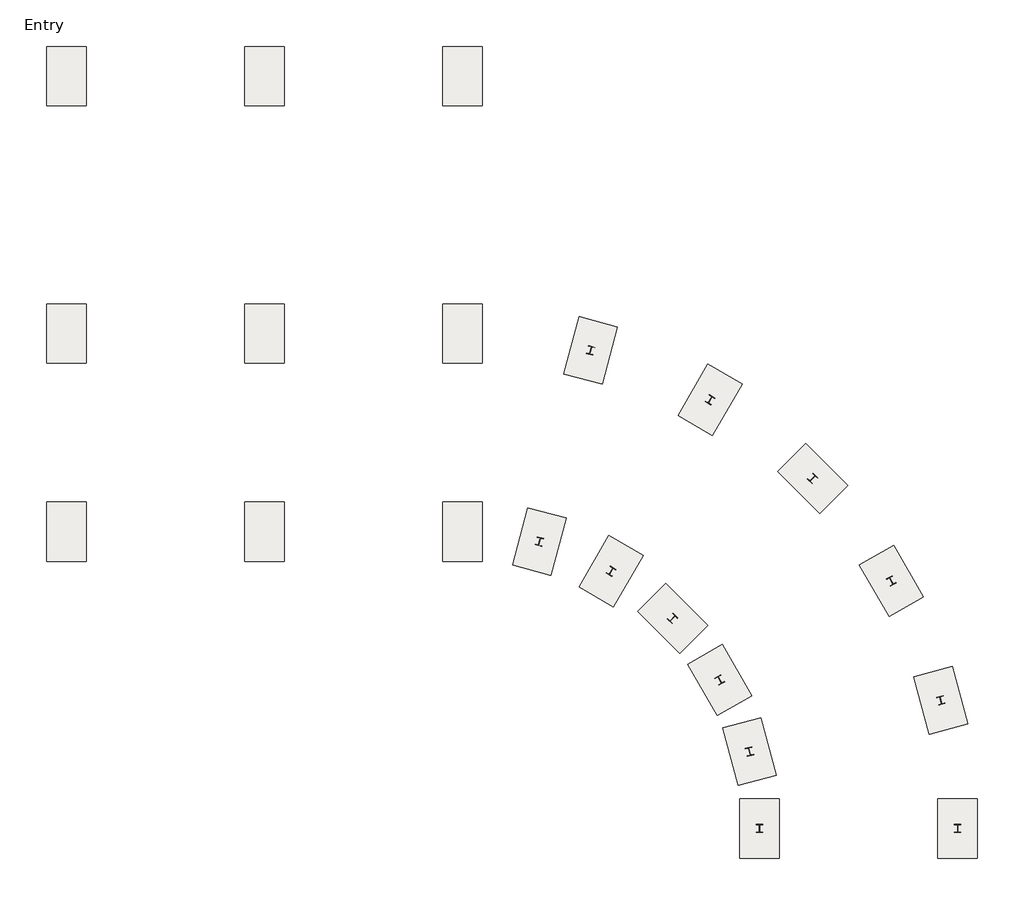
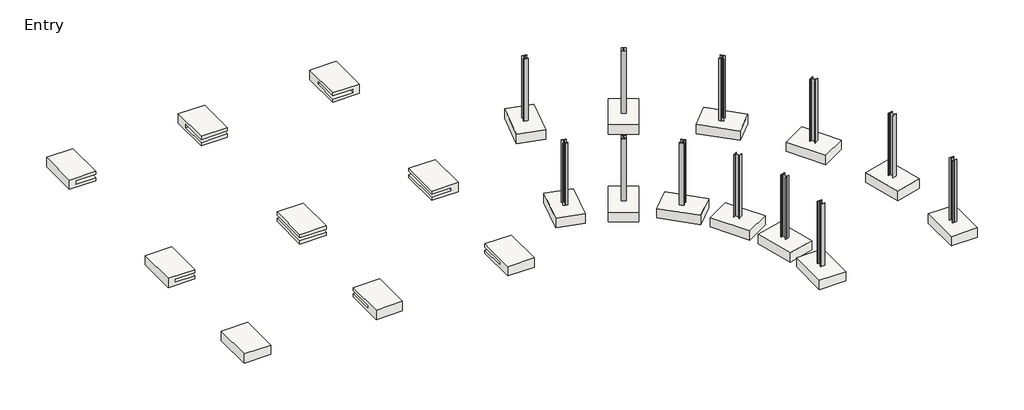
# One storey: 21 slabs, 12 columns.
"""IFC4 building model written with IfcOpenShell, lengths in millimetres."""

from ifc_helpers import new_model, si_unit, frame, origin, place, context, project, spatial, polyline, outline, extrude, faceted_brep, transform, mapped, element, save
from components import w_shapes_column_w10x33_31aeb65b, slab_5ba74754

model = new_model("IFC4")

# Units and contexts
model_context = context("Model", 3, world=origin())
ifc_project = project(units=[si_unit("LENGTHUNIT", "METRE", prefix="MILLI")], contexts=[model_context])

# Site, building, storey
site = spatial("IfcSite", under=ifc_project)
building = spatial("IfcBuilding", under=site)
storey = spatial("IfcBuildingStorey", under=building, Name="Entry", Elevation=0.0)

# Columns
placement = place(None, origin())
w_shapes_column_w10x33_shape = w_shapes_column_w10x33_31aeb65b(model_context)
element("IfcColumn", 1, ObjectType="W Shapes-Column : W10X33", at=placement, inside=storey, context=model_context, shape_type="MappedRepresentation", body=[
    mapped(w_shapes_column_w10x33_shape, transform((-11081.9327416, -13310.0818503, 0.0), x_axis=(1.0, 0.0, 0.0), y_axis=(0.0, 1.0, 0.0), z_axis=(0.0, 0.0, 1.0))),
])
element("IfcColumn", 2, ObjectType="W Shapes-Column : W10X33", at=placement, inside=storey, context=model_context, shape_type="MappedRepresentation", body=[
    mapped(w_shapes_column_w10x33_shape, transform((-4985.9327416, -13310.0818503, 0.0), x_axis=(1.0, 0.0, 0.0), y_axis=(0.0, 1.0, 0.0), z_axis=(0.0, 0.0, 1.0))),
])
element("IfcColumn", 3, ObjectType="W Shapes-Column : W10X33", at=placement, inside=storey, context=model_context, shape_type="MappedRepresentation", body=[
    mapped(w_shapes_column_w10x33_shape, transform((-11393.506986, -10943.4405019, 0.0), x_axis=(0.9659258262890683, 0.2588190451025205, 0.0), y_axis=(-0.2588190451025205, 0.9659258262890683, 0.0), z_axis=(0.0, 0.0, 1.0))),
])
element("IfcColumn", 4, ObjectType="W Shapes-Column : W10X33", at=placement, inside=storey, context=model_context, shape_type="MappedRepresentation", body=[
    mapped(w_shapes_column_w10x33_shape, transform((-5505.223149, -9365.679603, 0.0), x_axis=(0.9659258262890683, 0.2588190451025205, 0.0), y_axis=(-0.2588190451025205, 0.9659258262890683, 0.0), z_axis=(0.0, 0.0, 1.0))),
])
element("IfcColumn", 5, ObjectType="W Shapes-Column : W10X33", at=placement, inside=storey, context=model_context, shape_type="MappedRepresentation", body=[
    mapped(w_shapes_column_w10x33_shape, transform((-12306.9964494, -8738.0818503, 0.0), x_axis=(0.8660254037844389, 0.4999999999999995, 0.0), y_axis=(-0.4999999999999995, 0.8660254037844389, 0.0), z_axis=(0.0, 0.0, 1.0))),
])
element("IfcColumn", 6, ObjectType="W Shapes-Column : W10X33", at=placement, inside=storey, context=model_context, shape_type="MappedRepresentation", body=[
    mapped(w_shapes_column_w10x33_shape, transform((-7027.7055879, -5690.0818503, 0.0), x_axis=(0.8660254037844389, 0.4999999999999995, 0.0), y_axis=(-0.4999999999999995, 0.8660254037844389, 0.0), z_axis=(0.0, 0.0, 1.0))),
])
element("IfcColumn", 7, ObjectType="W Shapes-Column : W10X33", at=placement, inside=storey, context=model_context, shape_type="MappedRepresentation", body=[
    mapped(w_shapes_column_w10x33_shape, transform((-13760.1483344, -6844.2974432, 0.0), x_axis=(0.7071067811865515, -0.7071067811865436, 0.0), y_axis=(0.7071067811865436, 0.7071067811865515, 0.0), z_axis=(0.0, 0.0, 1.0))),
])
element("IfcColumn", 8, ObjectType="W Shapes-Column : W10X33", at=placement, inside=storey, context=model_context, shape_type="MappedRepresentation", body=[
    mapped(w_shapes_column_w10x33_shape, transform((-9449.6253963, -2533.7745051, 0.0), x_axis=(0.7071067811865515, -0.7071067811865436, 0.0), y_axis=(0.7071067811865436, 0.7071067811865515, 0.0), z_axis=(0.0, 0.0, 1.0))),
])
element("IfcColumn", 9, ObjectType="W Shapes-Column : W10X33", at=placement, inside=storey, context=model_context, shape_type="MappedRepresentation", body=[
    mapped(w_shapes_column_w10x33_shape, transform((-15653.9327416, -5391.1455581, 0.0), x_axis=(0.8660254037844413, -0.49999999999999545, 0.0), y_axis=(0.49999999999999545, 0.8660254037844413, 0.0), z_axis=(0.0, 0.0, 1.0))),
])
element("IfcColumn", 10, ObjectType="W Shapes-Column : W10X33", at=placement, inside=storey, context=model_context, shape_type="MappedRepresentation", body=[
    mapped(w_shapes_column_w10x33_shape, transform((-12605.9327416, -111.8546967, 0.0), x_axis=(0.8660254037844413, -0.49999999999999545, 0.0), y_axis=(0.49999999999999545, 0.8660254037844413, 0.0), z_axis=(0.0, 0.0, 1.0))),
])
element("IfcColumn", 11, ObjectType="W Shapes-Column : W10X33", at=placement, inside=storey, context=model_context, shape_type="MappedRepresentation", body=[
    mapped(w_shapes_column_w10x33_shape, transform((-17859.2913932, -4477.6560948, 0.0), x_axis=(0.9659258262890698, -0.25881904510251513, 0.0), y_axis=(0.25881904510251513, 0.9659258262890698, 0.0), z_axis=(0.0, 0.0, 1.0))),
])
element("IfcColumn", 12, ObjectType="W Shapes-Column : W10X33", at=placement, inside=storey, context=model_context, shape_type="MappedRepresentation", body=[
    mapped(w_shapes_column_w10x33_shape, transform((-16281.5304942, 1410.6277423, 0.0), x_axis=(0.9659258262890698, -0.25881904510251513, 0.0), y_axis=(0.25881904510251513, 0.9659258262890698, 0.0), z_axis=(0.0, 0.0, 1.0))),
])

# Slabs
element("IfcSlab", 13, ObjectType="Footing-Rectangular : 72\" x 48\" x 18\"", at=placement, inside=storey, context=model_context, shape_type="Brep", body=[
    faceted_brep([(-20835.5327416, 8940.3181497, -1676.4), (-19616.3327416, 8940.3181497, -1676.4), (-19616.3327416, 10769.1181497, -1676.4), (-20835.5327416, 10769.1181497, -1676.4), (-20835.5327416, 8940.3181497, -2133.6), (-20835.5327416, 10769.1181497, -2133.6), (-19616.3327416, 10769.1181497, -2133.6), (-19616.3327416, 8940.3181497, -2133.6), (-20835.5327416, 8940.3181497, -1828.8), (-19921.1327416, 8940.3181497, -1828.8), (-19921.1327416, 8940.3181497, -1981.2), (-20835.5327416, 8940.3181497, -1981.2), (-20835.5327416, 10159.5181497, -1981.2), (-20835.5327416, 10159.5181497, -1828.8), (-19921.1327416, 10159.5181497, -1981.2), (-19921.1327416, 10159.5181497, -1828.8)], [[[0, 1, 2, 3]], [[4, 5, 6, 7]], [[1, 0, 8, 9, 10, 11, 4, 7]], [[2, 1, 7, 6]], [[3, 2, 6, 5]], [[0, 3, 5, 4, 11, 12, 13, 8]], [[14, 12, 11, 10]], [[15, 9, 8, 13]], [[15, 14, 10, 9]], [[14, 15, 13, 12]]]),
])
element("IfcSlab", 14, ObjectType="Footing-Rectangular : 72\" x 48\" x 18\"", at=placement, inside=storey, context=model_context, shape_type="SweptSolid", body=[
    extrude(outline(polyline([(8940.3181497, -1676.4), (10769.1181497, -1676.4), (10769.1181497, -2133.6), (8940.3181497, -2133.6), (8940.3181497, -1981.2), (10159.5181497, -1981.2), (10159.5181497, -1828.8), (8940.3181497, -1828.8), (8940.3181497, -1676.4)])), frame((-26931.5327416, 0.0, 0.0), z_axis=(1.0, 0.0, 0.0), x_axis=(0.0, 1.0, 0.0)), (0.0, 0.0, 1.0), 1219.2),
])
element("IfcSlab", 15, ObjectType="Footing-Rectangular : 72\" x 48\" x 18\"", at=placement, inside=storey, context=model_context, shape_type="Brep", body=[
    faceted_brep([(-33027.5327416, 8940.3181497, -1676.4), (-31808.3327416, 8940.3181497, -1676.4), (-31808.3327416, 10769.1181497, -1676.4), (-33027.5327416, 10769.1181497, -1676.4), (-33027.5327416, 8940.3181497, -2133.6), (-33027.5327416, 10769.1181497, -2133.6), (-31808.3327416, 10769.1181497, -2133.6), (-31808.3327416, 8940.3181497, -2133.6), (-31808.3327416, 8940.3181497, -1981.2), (-32722.7327416, 8940.3181497, -1981.2), (-32722.7327416, 8940.3181497, -1828.8), (-31808.3327416, 8940.3181497, -1828.8), (-31808.3327416, 10159.5181497, -1828.8), (-31808.3327416, 10159.5181497, -1981.2), (-32722.7327416, 10159.5181497, -1981.2), (-32722.7327416, 10159.5181497, -1828.8)], [[[0, 1, 2, 3]], [[4, 5, 6, 7]], [[1, 0, 4, 7, 8, 9, 10, 11]], [[2, 1, 11, 12, 13, 8, 7, 6]], [[3, 2, 6, 5]], [[0, 3, 5, 4]], [[13, 14, 9, 8]], [[10, 15, 12, 11]], [[14, 15, 10, 9]], [[15, 14, 13, 12]]]),
])
element("IfcSlab", 16, ObjectType="Footing-Rectangular : 72\" x 48\" x 18\"", at=placement, inside=storey, context=model_context, shape_type="Brep", body=[
    faceted_brep([(-19616.3327416, -3251.6818503, -1676.4), (-20835.5327416, -3251.6818503, -1676.4), (-20835.5327416, -5080.4818503, -1676.4), (-19616.3327416, -5080.4818503, -1676.4), (-19616.3327416, -3251.6818503, -2133.6), (-19616.3327416, -5080.4818503, -2133.6), (-20835.5327416, -5080.4818503, -2133.6), (-20835.5327416, -3251.6818503, -2133.6), (-20835.5327416, -3251.6818503, -1981.2), (-19921.1327416, -3251.6818503, -1981.2), (-19921.1327416, -3251.6818503, -1828.8), (-20835.5327416, -3251.6818503, -1828.8), (-20835.5327416, -4470.8818503, -1828.8), (-20835.5327416, -4470.8818503, -1981.2), (-19921.1327416, -4470.8818503, -1981.2), (-19921.1327416, -4470.8818503, -1828.8)], [[[0, 1, 2, 3]], [[4, 5, 6, 7]], [[1, 0, 4, 7, 8, 9, 10, 11]], [[2, 1, 11, 12, 13, 8, 7, 6]], [[3, 2, 6, 5]], [[0, 3, 5, 4]], [[13, 14, 9, 8]], [[10, 15, 12, 11]], [[14, 15, 10, 9]], [[15, 14, 13, 12]]]),
])
element("IfcSlab", 17, ObjectType="Footing-Rectangular : 72\" x 48\" x 18\"", at=placement, inside=storey, context=model_context, shape_type="SweptSolid", body=[
    extrude(outline(polyline([(-1676.4, -19616.3327416), (-1676.4, -20835.5327416), (-1828.8, -20835.5327416), (-1828.8, -19921.1327416), (-1981.2, -19921.1327416), (-1981.2, -20835.5327416), (-2133.6, -20835.5327416), (-2133.6, -19616.3327416), (-1676.4, -19616.3327416)])), frame((0.0, 1015.5181497, 0.0), z_axis=(0.0, 1.0, 0.0), x_axis=(0.0, 0.0, 1.0)), (0.0, 0.0, 1.0), 1828.8),
])
element("IfcSlab", 18, ObjectType="Footing-Rectangular : 72\" x 48\" x 18\"", at=placement, inside=storey, context=model_context, shape_type="SweptSolid", body=[
    extrude(outline(polyline([(-25712.3327416, 1015.5181497), (-26931.5327416, 1015.5181497), (-26931.5327416, 2844.3181497), (-25712.3327416, 2844.3181497), (-25712.3327416, 1015.5181497)])), frame((0.0, 0.0, -1828.8), z_axis=(0.0, 0.0, 1.0), x_axis=(1.0, 0.0, 0.0)), (0.0, 0.0, 1.0), 152.4),
    extrude(outline(polyline([(-26931.5327416, 1015.5181497), (-26931.5327416, 2844.3181497), (-25712.3327416, 2844.3181497), (-25712.3327416, 1015.5181497), (-26931.5327416, 1015.5181497)])), frame((0.0, 0.0, -2133.6), z_axis=(0.0, 0.0, 1.0), x_axis=(1.0, 0.0, 0.0)), (0.0, 0.0, 1.0), 152.4),
])
element("IfcSlab", 19, ObjectType="Footing-Rectangular : 72\" x 48\" x 18\"", at=placement, inside=storey, context=model_context, shape_type="SweptSolid", body=[
    extrude(outline(polyline([(-1676.4, -31808.3327416), (-1676.4, -33027.5327416), (-2133.6, -33027.5327416), (-2133.6, -31808.3327416), (-1981.2, -31808.3327416), (-1981.2, -32722.7327416), (-1828.8, -32722.7327416), (-1828.8, -31808.3327416), (-1676.4, -31808.3327416)])), frame((0.0, 1015.5181497, 0.0), z_axis=(0.0, 1.0, 0.0), x_axis=(0.0, 0.0, 1.0)), (0.0, 0.0, 1.0), 1828.8),
])
element("IfcSlab", 20, ObjectType="Footing-Rectangular : 72\" x 48\" x 18\"", at=placement, inside=storey, context=model_context, shape_type="SweptSolid", body=[
    extrude(outline(polyline([(-5080.4818503, -1676.4), (-3251.6818503, -1676.4), (-3251.6818503, -1828.8), (-4470.8818503, -1828.8), (-4470.8818503, -1981.2), (-3251.6818503, -1981.2), (-3251.6818503, -2133.6), (-5080.4818503, -2133.6), (-5080.4818503, -1676.4)])), frame((-26931.5327416, 0.0, 0.0), z_axis=(1.0, 0.0, 0.0), x_axis=(0.0, 1.0, 0.0)), (0.0, 0.0, 1.0), 1219.2),
])
element("IfcSlab", 21, ObjectType="Footing-Rectangular : 72\" x 48\" x 18\"", at=placement, inside=storey, context=model_context, shape_type="Brep", body=[
    faceted_brep([(-33027.5327416, -5080.4818503, -1676.4), (-31808.3327416, -5080.4818503, -1676.4), (-31808.3327416, -3251.6818503, -1676.4), (-33027.5327416, -3251.6818503, -1676.4), (-33027.5327416, -5080.4818503, -2133.6), (-33027.5327416, -3251.6818503, -2133.6), (-31808.3327416, -3251.6818503, -2133.6), (-31808.3327416, -5080.4818503, -2133.6), (-31808.3327416, -3251.6818503, -1981.2), (-31808.3327416, -4470.8818503, -1981.2), (-31808.3327416, -4470.8818503, -1828.8), (-31808.3327416, -3251.6818503, -1828.8), (-32722.7327416, -3251.6818503, -1828.8), (-32722.7327416, -3251.6818503, -1981.2), (-32722.7327416, -4470.8818503, -1981.2), (-32722.7327416, -4470.8818503, -1828.8)], [[[0, 1, 2, 3]], [[4, 5, 6, 7]], [[1, 0, 4, 7]], [[2, 1, 7, 6, 8, 9, 10, 11]], [[3, 2, 11, 12, 13, 8, 6, 5]], [[0, 3, 5, 4]], [[13, 14, 9, 8]], [[10, 15, 12, 11]], [[14, 15, 10, 9]], [[15, 14, 13, 12]]]),
])
slab_shape = slab_5ba74754(model_context)
element("IfcSlab", 22, ObjectType="Footing-Rectangular : 72\" x 48\" x 18\"", at=placement, inside=storey, context=model_context, shape_type="MappedRepresentation", body=[
    mapped(slab_shape, transform((-11081.9327416, -13310.0818503, 0.0), x_axis=(1.0, 0.0, 0.0), y_axis=(0.0, 1.0, 0.0), z_axis=(0.0, 0.0, 1.0))),
])
element("IfcSlab", 23, ObjectType="Footing-Rectangular : 72\" x 48\" x 18\"", at=placement, inside=storey, context=model_context, shape_type="MappedRepresentation", body=[
    mapped(slab_shape, transform((-11393.506986, -10943.4405019, 0.0), x_axis=(0.9659258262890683, 0.2588190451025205, 0.0), y_axis=(-0.2588190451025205, 0.9659258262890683, 0.0), z_axis=(0.0, 0.0, 1.0))),
])
element("IfcSlab", 24, ObjectType="Footing-Rectangular : 72\" x 48\" x 18\"", at=placement, inside=storey, context=model_context, shape_type="MappedRepresentation", body=[
    mapped(slab_shape, transform((-12306.9964494, -8738.0818503, 0.0), x_axis=(0.8660254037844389, 0.4999999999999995, 0.0), y_axis=(-0.4999999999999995, 0.8660254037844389, 0.0), z_axis=(0.0, 0.0, 1.0))),
])
element("IfcSlab", 25, ObjectType="Footing-Rectangular : 72\" x 48\" x 18\"", at=placement, inside=storey, context=model_context, shape_type="MappedRepresentation", body=[
    mapped(slab_shape, transform((-13760.1483344, -6844.2974432, 0.0), x_axis=(0.7071067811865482, 0.7071067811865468, 0.0), y_axis=(-0.7071067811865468, 0.7071067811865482, 0.0), z_axis=(0.0, 0.0, 1.0))),
])
element("IfcSlab", 26, ObjectType="Footing-Rectangular : 72\" x 48\" x 18\"", at=placement, inside=storey, context=model_context, shape_type="MappedRepresentation", body=[
    mapped(slab_shape, transform((-15653.9327416, -5391.1455581, 0.0), x_axis=(0.8660254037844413, -0.49999999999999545, 0.0), y_axis=(0.49999999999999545, 0.8660254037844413, 0.0), z_axis=(0.0, 0.0, 1.0))),
])
element("IfcSlab", 27, ObjectType="Footing-Rectangular : 72\" x 48\" x 18\"", at=placement, inside=storey, context=model_context, shape_type="MappedRepresentation", body=[
    mapped(slab_shape, transform((-17859.2913932, -4477.6560948, 0.0), x_axis=(0.9659258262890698, -0.25881904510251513, 0.0), y_axis=(0.25881904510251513, 0.9659258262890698, 0.0), z_axis=(0.0, 0.0, 1.0))),
])
element("IfcSlab", 28, ObjectType="Footing-Rectangular : 72\" x 48\" x 18\"", at=placement, inside=storey, context=model_context, shape_type="MappedRepresentation", body=[
    mapped(slab_shape, transform((-4985.9327416, -13310.0818503, 0.0), x_axis=(1.0, 0.0, 0.0), y_axis=(0.0, 1.0, 0.0), z_axis=(0.0, 0.0, 1.0))),
])
element("IfcSlab", 29, ObjectType="Footing-Rectangular : 72\" x 48\" x 18\"", at=placement, inside=storey, context=model_context, shape_type="MappedRepresentation", body=[
    mapped(slab_shape, transform((-5505.223149, -9365.679603, 0.0), x_axis=(0.9659258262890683, 0.2588190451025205, 0.0), y_axis=(-0.2588190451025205, 0.9659258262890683, 0.0), z_axis=(0.0, 0.0, 1.0))),
])
element("IfcSlab", 30, ObjectType="Footing-Rectangular : 72\" x 48\" x 18\"", at=placement, inside=storey, context=model_context, shape_type="MappedRepresentation", body=[
    mapped(slab_shape, transform((-7027.7055879, -5690.0818503, 0.0), x_axis=(0.8660254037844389, 0.4999999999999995, 0.0), y_axis=(-0.4999999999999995, 0.8660254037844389, 0.0), z_axis=(0.0, 0.0, 1.0))),
])
element("IfcSlab", 31, ObjectType="Footing-Rectangular : 72\" x 48\" x 18\"", at=placement, inside=storey, context=model_context, shape_type="MappedRepresentation", body=[
    mapped(slab_shape, transform((-9449.6253963, -2533.7745051, 0.0), x_axis=(0.7071067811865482, 0.7071067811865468, 0.0), y_axis=(-0.7071067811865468, 0.7071067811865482, 0.0), z_axis=(0.0, 0.0, 1.0))),
])
element("IfcSlab", 32, ObjectType="Footing-Rectangular : 72\" x 48\" x 18\"", at=placement, inside=storey, context=model_context, shape_type="MappedRepresentation", body=[
    mapped(slab_shape, transform((-12605.9327416, -111.8546967, 0.0), x_axis=(0.8660254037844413, -0.49999999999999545, 0.0), y_axis=(0.49999999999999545, 0.8660254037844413, 0.0), z_axis=(0.0, 0.0, 1.0))),
])
element("IfcSlab", 33, ObjectType="Footing-Rectangular : 72\" x 48\" x 18\"", at=placement, inside=storey, context=model_context, shape_type="MappedRepresentation", body=[
    mapped(slab_shape, transform((-16281.5304942, 1410.6277423, 0.0), x_axis=(0.9659258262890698, -0.25881904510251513, 0.0), y_axis=(0.25881904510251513, 0.9659258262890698, 0.0), z_axis=(0.0, 0.0, 1.0))),
])

save(model, "model.ifc")
